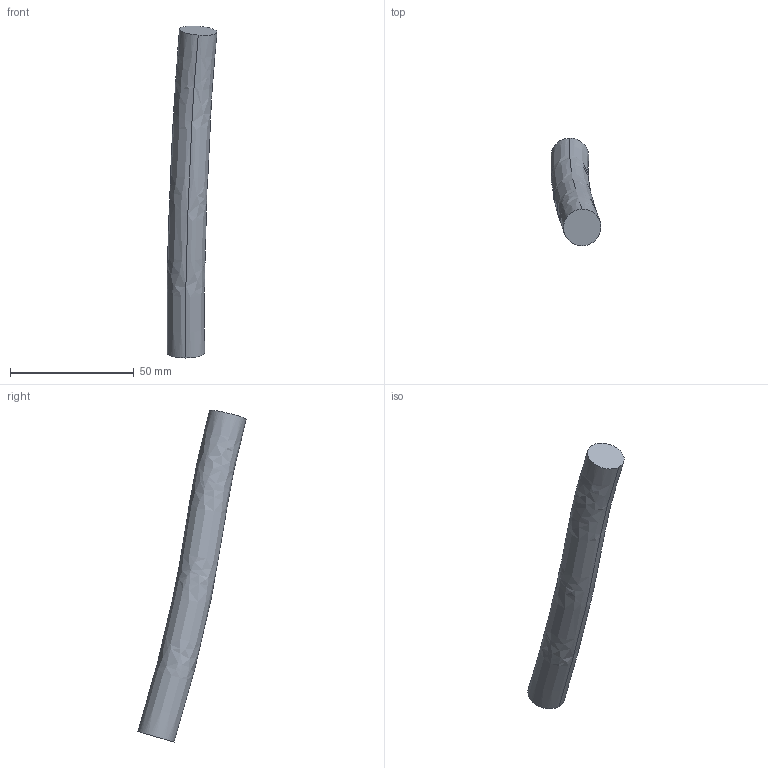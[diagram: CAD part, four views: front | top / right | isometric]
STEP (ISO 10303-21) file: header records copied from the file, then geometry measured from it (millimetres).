
FILE_DESCRIPTION(('Open CASCADE Model'),'2;1');
FILE_NAME('braided-sleeve.step','2026-11-14T14:32:01',('Author'),( 'Open CASCADE'),'Open CASCADE STEP processor 8.0','Open CASCADE 8.0' ,'Unknown');
FILE_SCHEMA(('AP242_MANAGED_MODEL_BASED_3D_ENGINEERING_MIM_LF {1 0 10303 442 1 1 4 }' ));
Length unit declared in the file: millimetre
Products named in the file (1): Braided Sleeve
Bounding box: 20.18 x 43.68 x 134.03 mm (x, y, z)
Volume: 10285.9 mm3; surface area: 11538.8 mm2
Topology: 1 solids, 1 shells, 7 faces, 12 edges, 8 vertices
Faces by surface type: bspline 4, plane 3
Entity records: 2118 total; most frequent: CARTESIAN_POINT 1906, B_SPLINE_CURVE_WITH_KNOTS 28, ORIENTED_EDGE 24, PCURVE 24, DEFINITIONAL_REPRESENTATION 24, DIRECTION 16, EDGE_CURVE 12, SURFACE_CURVE 12
